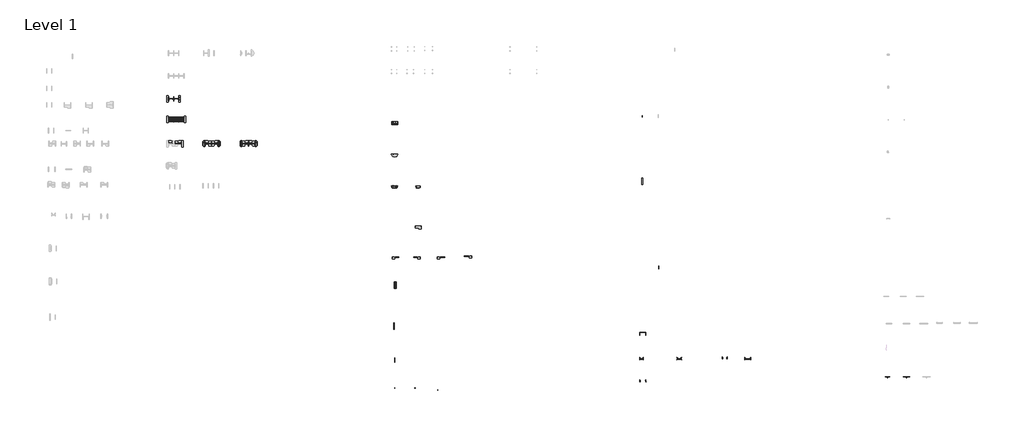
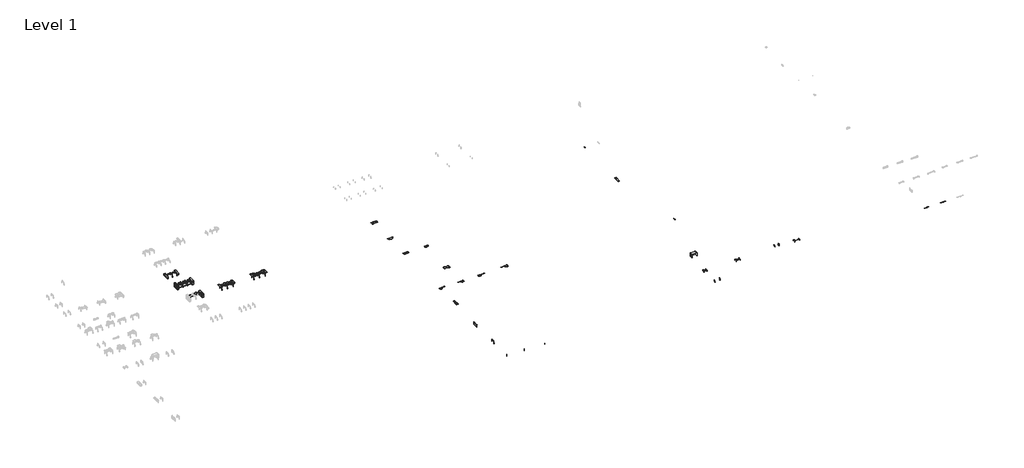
# One storey, part 3 of 4: 114 furniture elements.
"""IFC4 building model written with IfcOpenShell, lengths in millimetres."""

from ifc_helpers import new_model, si_unit, origin, place, context, project, spatial, transform, mapped, element, save
from components import furniture_07929c5c, furniture_1dee7e2f, furniture_bd7a3b76, furniture_5ffd5a01, furniture_1d392456, furniture_46c987b0, furniture_3_high_75bf60bf, furniture_3_high_59e398f0, furniture_3_high_cb3a7265, furniture_2_high_e7661cec, furniture_36w_9987a5bf, furniture_41_1_2w_a59e4a47, furniture_48w_f52d431a, furniture_48w_80b5658e, furniture_48w_f59d3814, furniture_48w_d01410e0, furniture_60w_907c8dee, furniture_60w_9ff7b1d1, furniture_60w_2125a2dd, furniture_60w_cce648a8, furniture_60w_9ca0c22e, furniture_60w_6a745f56, furniture_60w_b1f3d5a1, furniture_60w_left_193ce283, furniture_60w_left_80dfc609, furniture_60w_right_423f7bdd, furniture_60w_right_6b6f8c7d, furniture_60w_right_3e926bd7, furniture_60w_right_09d68f9b, furniture_72w_left_38a2987f, furniture_72w_right_2cdcb562, attachment_bracket_e48f39cd, bracket_5da60547, bracket_8338e0bc, full_2cae2f0a, full_half_8ba35e3a, full_half_125b1efd, lower_48w_93449fcc, lower_48w_d15a52aa, planter_e9aa8756, seat_e1c811f7, side_storage_3572fcca, table_mount_b10ff3c6, table_mount_8f96cead

model = new_model("IFC4")

# Units and contexts
model_context = context("Model", 3, world=origin())
ifc_project = project(units=[si_unit("LENGTHUNIT", "METRE", prefix="MILLI")], contexts=[model_context])

# Site, building, storey
site = spatial("IfcSite", under=ifc_project)
building = spatial("IfcBuilding", under=site)
storey = spatial("IfcBuildingStorey", under=building, Name="Level 1", Elevation=0.0)

# Furniture
placement = place(None, origin())
furniture_shape = furniture_07929c5c(model_context)
element("IfcFurniture", 1, ObjectType="Steelcase Turnstone - Bivi - Table - Leg : 2D x 42 1/4W 28 1/2H", at=placement, inside=storey, context=model_context, shape_type="MappedRepresentation", body=[
    mapped(furniture_shape, transform((722187.3850089, -3962.0722991, 0.0), x_axis=(-1.0, 0.0, 0.0), y_axis=(0.0, -1.0, 0.0), z_axis=(0.0, 0.0, 1.0))),
])
element("IfcFurniture", 2, ObjectType="Steelcase Turnstone - Bivi - Table - Leg : 2D x 42 1/4W 28 1/2H", at=placement, inside=storey, context=model_context, shape_type="MappedRepresentation", body=[
    mapped(furniture_shape, transform((723404.9086089, -3962.0722991, 0.0), x_axis=(-1.0, 0.0, 0.0), y_axis=(0.0, -1.0, 0.0), z_axis=(0.0, 0.0, 1.0))),
])
element("IfcFurniture", 3, ObjectType="Steelcase Turnstone - Bivi - Table - Leg : 2D x 42 1/4W 28 1/2H", at=placement, inside=storey, context=model_context, shape_type="MappedRepresentation", body=[
    mapped(furniture_shape, transform((722187.3850089, -8838.8722991, 0.0), x_axis=(-1.0, 0.0, 0.0), y_axis=(0.0, -1.0, 0.0), z_axis=(0.0, 0.0, 1.0))),
])
element("IfcFurniture", 4, ObjectType="Steelcase Turnstone - Bivi - Table - Leg : 2D x 42 1/4W 28 1/2H", at=placement, inside=storey, context=model_context, shape_type="MappedRepresentation", body=[
    mapped(furniture_shape, transform((723404.9086089, -8838.8722991, 0.0), x_axis=(-1.0, 0.0, 0.0), y_axis=(0.0, -1.0, 0.0), z_axis=(0.0, 0.0, 1.0))),
])
element("IfcFurniture", 5, ObjectType="Steelcase Turnstone - Bivi - Table - Leg : 2D x 42 1/4W 28 1/2H", at=placement, inside=storey, context=model_context, shape_type="MappedRepresentation", body=[
    mapped(furniture_shape, transform((731026.5850089, -14477.6722991, 0.0), x_axis=(-1.0, 0.0, 0.0), y_axis=(0.0, -1.0, 0.0), z_axis=(0.0, 0.0, 1.0))),
])
element("IfcFurniture", 6, ObjectType="Steelcase Turnstone - Bivi - Table - Leg : 2D x 42 1/4W 28 1/2H", at=placement, inside=storey, context=model_context, shape_type="MappedRepresentation", body=[
    mapped(furniture_shape, transform((739713.3850089, -14477.6722991, 0.0), x_axis=(-1.0, 0.0, 0.0), y_axis=(0.0, -1.0, 0.0), z_axis=(0.0, 0.0, 1.0))),
])
furniture_2_shape = furniture_1dee7e2f(model_context)
element("IfcFurniture", 7, ObjectType="Steelcase Turnstone - Bivi - Table - Back Pocket : 28 1/2D x 58 1/2W x 7 1/4H", at=placement, inside=storey, context=model_context, shape_type="MappedRepresentation", body=[
    mapped(furniture_2_shape, transform((773116.4266429, -9485.6635359, 0.0), x_axis=(1.0, 0.0, 0.0), y_axis=(0.0, 1.0, 0.0), z_axis=(0.0, 0.0, 1.0))),
])
furniture_3_shape = furniture_bd7a3b76(model_context)
element("IfcFurniture", 8, ObjectType="Steelcase Turnstone - Bivi - Table - Half Round : 27D x 60W x 8H", at=placement, inside=storey, context=model_context, shape_type="MappedRepresentation", body=[
    mapped(furniture_3_shape, transform((773097.3766429, -16423.038529, 0.0), x_axis=(1.0, 0.0, 0.0), y_axis=(0.0, 1.0, 0.0), z_axis=(0.0, 0.0, 1.0))),
])
furniture_4_shape = furniture_5ffd5a01(model_context)
element("IfcFurniture", 9, ObjectType="Steelcase Turnstone - Bivi - Table - Leg : 2D x 42 1/4W 28 1/2H", at=placement, inside=storey, context=model_context, shape_type="MappedRepresentation", body=[
    mapped(furniture_4_shape, transform((773844.0622101, -65192.9027249, 0.0), x_axis=(1.0, 0.0, 0.0), y_axis=(0.0, 1.0, 0.0), z_axis=(0.0, 0.0, 1.0))),
])
element("IfcFurniture", 10, ObjectType="Steelcase Turnstone - Bivi - Table - Leg : 2D x 42 1/4W 28 1/2H", at=placement, inside=storey, context=model_context, shape_type="MappedRepresentation", body=[
    mapped(furniture_4_shape, transform((720920.7378089, -3962.0722991, 0.0), x_axis=(1.0, 0.0, 0.0), y_axis=(0.0, 1.0, 0.0), z_axis=(0.0, 0.0, 1.0))),
])
element("IfcFurniture", 11, ObjectType="Steelcase Turnstone - Bivi - Table - Leg : 2D x 42 1/4W 28 1/2H", at=placement, inside=storey, context=model_context, shape_type="MappedRepresentation", body=[
    mapped(furniture_4_shape, transform((720920.7378089, -8838.8722991, 0.0), x_axis=(1.0, 0.0, 0.0), y_axis=(0.0, 1.0, 0.0), z_axis=(0.0, 0.0, 1.0))),
])
element("IfcFurniture", 12, ObjectType="Steelcase Turnstone - Bivi - Table - Leg : 2D x 42 1/4W 28 1/2H", at=placement, inside=storey, context=model_context, shape_type="MappedRepresentation", body=[
    mapped(furniture_4_shape, transform((724573.3086089, -8838.8722991, 0.0), x_axis=(1.0, 0.0, 0.0), y_axis=(0.0, 1.0, 0.0), z_axis=(0.0, 0.0, 1.0))),
])
element("IfcFurniture", 13, ObjectType="Steelcase Turnstone - Bivi - Table - Leg : 2D x 42 1/4W 28 1/2H", at=placement, inside=storey, context=model_context, shape_type="MappedRepresentation", body=[
    mapped(furniture_4_shape, transform((729455.1378089, -14477.6722991, 0.0), x_axis=(1.0, 0.0, 0.0), y_axis=(0.0, 1.0, 0.0), z_axis=(0.0, 0.0, 1.0))),
])
element("IfcFurniture", 14, ObjectType="Steelcase Turnstone - Bivi - Table - Leg : 2D x 42 1/4W 28 1/2H", at=placement, inside=storey, context=model_context, shape_type="MappedRepresentation", body=[
    mapped(furniture_4_shape, transform((732498.1086089, -14477.6722991, 0.0), x_axis=(1.0, 0.0, 0.0), y_axis=(0.0, 1.0, 0.0), z_axis=(0.0, 0.0, 1.0))),
])
element("IfcFurniture", 15, ObjectType="Steelcase Turnstone - Bivi - Table - Leg : 2D x 42 1/4W 28 1/2H", at=placement, inside=storey, context=model_context, shape_type="MappedRepresentation", body=[
    mapped(furniture_4_shape, transform((738141.9378089, -14477.6722991, 0.0), x_axis=(1.0, 0.0, 0.0), y_axis=(0.0, 1.0, 0.0), z_axis=(0.0, 0.0, 1.0))),
])
element("IfcFurniture", 16, ObjectType="Steelcase Turnstone - Bivi - Table - Leg : 2D x 42 1/4W 28 1/2H", at=placement, inside=storey, context=model_context, shape_type="MappedRepresentation", body=[
    mapped(furniture_4_shape, transform((741184.9086089, -14477.6722991, 0.0), x_axis=(1.0, 0.0, 0.0), y_axis=(0.0, 1.0, 0.0), z_axis=(0.0, 0.0, 1.0))),
])
furniture_5_shape = furniture_1d392456(model_context)
element("IfcFurniture", 17, ObjectType="Steelcase Turnstone - Bivi - Arch Accessories - Markerboard : 14W x 6 7/8H", at=placement, inside=storey, context=model_context, shape_type="MappedRepresentation", body=[
    mapped(furniture_5_shape, transform((831737.7529477, -7741.6552347, 0.0), x_axis=(1.0, 0.0, 0.0), y_axis=(0.0, 1.0, 0.0), z_axis=(0.0, 0.0, 1.0))),
])
furniture_6_shape = furniture_46c987b0(model_context)
element("IfcFurniture", 18, ObjectType="Steelcase Turnstone - Bivi - Storage - Trunk Support : Attachcment Bracket", at=placement, inside=storey, context=model_context, shape_type="MappedRepresentation", body=[
    mapped(furniture_6_shape, transform((723382.7597915, -4179.9288494, 0.0), x_axis=(0.0, 1.0000000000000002, 0.0), y_axis=(-1.0000000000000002, 0.0, 0.0), z_axis=(0.0, 0.0, 1.0))),
])
element("IfcFurniture", 19, ObjectType="Steelcase Turnstone - Bivi - Storage - Trunk Support : Attachcment Bracket", at=placement, inside=storey, context=model_context, shape_type="MappedRepresentation", body=[
    mapped(furniture_6_shape, transform((720942.8866264, -2663.4353497, 0.0), x_axis=(0.0, -1.0000000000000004, 0.0), y_axis=(1.0000000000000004, 0.0, 0.0), z_axis=(0.0, 0.0, 1.0))),
])
furniture_3_high_shape = furniture_3_high_75bf60bf(model_context)
furniture_3_high_2_shape = furniture_3_high_59e398f0(model_context)
element("IfcFurniture", 20, ObjectType="Steelcase Turnstone - Bivi - Storage - Depot : 3 High", at=placement, inside=storey, context=model_context, shape_type="MappedRepresentation", body=[
    mapped(furniture_3_high_shape, transform((720568.3128089, -9056.7288494, 0.0), x_axis=(0.0, 1.0, 0.0), y_axis=(-1.0, 0.0, 0.0), z_axis=(0.0, 0.0, 1.0))),
    mapped(furniture_3_high_2_shape, transform((720568.3128089, -9056.7288494, 0.0), x_axis=(0.0, 1.0, 0.0), y_axis=(-1.0, 0.0, 0.0), z_axis=(0.0, 0.0, 1.0))),
])
furniture_3_high_3_shape = furniture_3_high_cb3a7265(model_context)
furniture_2_high_shape = furniture_2_high_e7661cec(model_context)
element("IfcFurniture", 21, ObjectType="Steelcase Turnstone - Bivi - Storage - Depot : 3 High", at=placement, inside=storey, context=model_context, shape_type="MappedRepresentation", body=[
    mapped(furniture_3_high_3_shape, transform((724974.8572089, -9056.7288494, 0.0), x_axis=(0.0, 1.0, 0.0), y_axis=(-1.0, 0.0, 0.0), z_axis=(0.0, 0.0, 1.0))),
    mapped(furniture_2_high_shape, transform((724974.8572089, -9056.7288494, 0.0), x_axis=(0.0, 1.0, 0.0), y_axis=(-1.0, 0.0, 0.0), z_axis=(0.0, 0.0, 1.0))),
])
element("IfcFurniture", 22, ObjectType="Steelcase Turnstone - Bivi - Storage - Depot : 3 High", at=placement, inside=storey, context=model_context, shape_type="MappedRepresentation", body=[
    mapped(furniture_3_high_3_shape, transform((724365.2572089, -14695.5288494, 0.0), x_axis=(0.0, 1.0, 0.0), y_axis=(-1.0, 0.0, 0.0), z_axis=(0.0, 0.0, 1.0))),
    mapped(furniture_2_high_shape, transform((724365.2572089, -14695.5288494, 0.0), x_axis=(0.0, 1.0, 0.0), y_axis=(-1.0, 0.0, 0.0), z_axis=(0.0, 0.0, 1.0))),
])
furniture_36w_shape = furniture_36w_9987a5bf(model_context)
element("IfcFurniture", 23, ObjectType="Steelcase Turnstone - Bivi - Seat - Rumble Seat - Freestanding Leg : 36W", at=placement, inside=storey, context=model_context, shape_type="MappedRepresentation", body=[
    mapped(furniture_36w_shape, transform((831468.1990741, -64351.9099381, 0.0), x_axis=(1.0, 0.0, 0.0), y_axis=(0.0, 1.0, 0.0), z_axis=(0.0, 0.0, 1.0))),
])
furniture_41_1_2w_shape = furniture_41_1_2w_a59e4a47(model_context)
element("IfcFurniture", 24, ObjectType="Steelcase Turnstone - Bivi - Table - Transaction : 41 1/2W", at=placement, inside=storey, context=model_context, shape_type="MappedRepresentation", body=[
    mapped(furniture_41_1_2w_shape, transform((778583.7766429, -23850.0204021, 0.0), x_axis=(1.0, 0.0, 0.0), y_axis=(0.0, 1.0, 0.0), z_axis=(0.0, 0.0, 1.0))),
])
furniture_48w_shape = furniture_48w_f52d431a(model_context)
element("IfcFurniture", 25, ObjectType="Steelcase Turnstone - Bivi - Accessories - Monitor Arm Table Mount : 48W", at=placement, inside=storey, context=model_context, shape_type="MappedRepresentation", body=[
    mapped(furniture_48w_shape, transform((888980.396485, -68407.9198126, 0.0), x_axis=(1.0, 0.0, 0.0), y_axis=(0.0, 1.0, 0.0), z_axis=(0.0, 0.0, 1.0))),
])
furniture_48w_2_shape = furniture_48w_80b5658e(model_context)
element("IfcFurniture", 26, ObjectType="Steelcase Turnstone - Bivi - Accessories - High Sit Bracket with Modesty Panel : 48W", at=placement, inside=storey, context=model_context, shape_type="MappedRepresentation", body=[
    mapped(furniture_48w_2_shape, transform((723509.9630089, -8212.4769492, 0.0), x_axis=(-1.0, 0.0, 0.0), y_axis=(0.0, -1.0, 0.0), z_axis=(0.0, 0.0, 1.0))),
])
furniture_48w_3_shape = furniture_48w_f59d3814(model_context)
element("IfcFurniture", 27, ObjectType="Steelcase Turnstone - Bivi - Accessories - High Sit Bracket with Modesty Panel : 48W", at=placement, inside=storey, context=model_context, shape_type="MappedRepresentation", body=[
    mapped(furniture_48w_3_shape, transform((720815.6834089, -8212.4769492, 0.0), x_axis=(1.0, 0.0, 0.0), y_axis=(0.0, 1.0, 0.0), z_axis=(0.0, 0.0, 1.0))),
])
element("IfcFurniture", 28, ObjectType="Steelcase Turnstone - Bivi - Accessories - High Sit Bracket with Modesty Panel : 48W", at=placement, inside=storey, context=model_context, shape_type="MappedRepresentation", body=[
    mapped(furniture_48w_3_shape, transform((723250.7306089, -8212.4769492, 0.0), x_axis=(1.0, 0.0, 0.0), y_axis=(0.0, 1.0, 0.0), z_axis=(0.0, 0.0, 1.0))),
])
furniture_48w_4_shape = furniture_48w_d01410e0(model_context)
element("IfcFurniture", 29, ObjectType="Steelcase Turnstone - Bivi - Seat - Rumble Seat - Freestanding Leg : 48W", at=placement, inside=storey, context=model_context, shape_type="MappedRepresentation", body=[
    mapped(furniture_48w_4_shape, transform((840302.9532911, -64351.9099381, 0.0), x_axis=(1.0, 0.0, 0.0), y_axis=(0.0, 1.0, 0.0), z_axis=(0.0, 0.0, 1.0))),
])
furniture_60w_shape = furniture_60w_907c8dee(model_context)
element("IfcFurniture", 30, ObjectType="Steelcase Turnstone - Bivi - Accessories - End Panel : 60W", at=placement, inside=storey, context=model_context, shape_type="MappedRepresentation", body=[
    mapped(furniture_60w_shape, transform((773587.9014429, -56584.4370987, 0.0), x_axis=(1.0, 0.0, 0.0), y_axis=(0.0, 1.0, 0.0), z_axis=(0.0, 0.0, 1.0))),
])
furniture_60w_2_shape = furniture_60w_9ff7b1d1(model_context)
element("IfcFurniture", 31, ObjectType="Steelcase Turnstone - Bivi - Table - End Hanging Table Top : 60W", at=placement, inside=storey, context=model_context, shape_type="MappedRepresentation", body=[
    mapped(furniture_60w_2_shape, transform((774011.7766187, -47433.1608949, 0.0), x_axis=(1.0, 0.0, 0.0), y_axis=(0.0, 1.0, 0.0), z_axis=(0.0, 0.0, 1.0))),
])
furniture_60w_3_shape = furniture_60w_2125a2dd(model_context)
element("IfcFurniture", 32, ObjectType="Steelcase Turnstone - Bivi - Accessories - Monitor Arm Table Mount : 60W", at=placement, inside=storey, context=model_context, shape_type="MappedRepresentation", body=[
    mapped(furniture_60w_3_shape, transform((893435.0676956, -68407.9198126, 0.0), x_axis=(1.0, 0.0, 0.0), y_axis=(0.0, 1.0, 0.0), z_axis=(0.0, 0.0, 1.0))),
])
furniture_60w_4_shape = furniture_60w_cce648a8(model_context)
element("IfcFurniture", 33, ObjectType="Steelcase Turnstone - Bivi - Accessories - High Sit Bracket with Modesty Panel : 60W", at=placement, inside=storey, context=model_context, shape_type="MappedRepresentation", body=[
    mapped(furniture_60w_4_shape, transform((723965.8157862, -13851.2769492, 0.0), x_axis=(-1.0, 0.0, 0.0), y_axis=(0.0, -1.0, 0.0), z_axis=(0.0, 0.0, 1.0))),
])
element("IfcFurniture", 34, ObjectType="Steelcase Turnstone - Bivi - Accessories - High Sit Bracket with Modesty Panel : 60W", at=placement, inside=storey, context=model_context, shape_type="MappedRepresentation", body=[
    mapped(furniture_60w_4_shape, transform((732500.2157862, -13851.2769492, 0.0), x_axis=(-1.0, 0.0, 0.0), y_axis=(0.0, -1.0, 0.0), z_axis=(0.0, 0.0, 1.0))),
])
element("IfcFurniture", 35, ObjectType="Steelcase Turnstone - Bivi - Accessories - High Sit Bracket with Modesty Panel : 60W", at=placement, inside=storey, context=model_context, shape_type="MappedRepresentation", body=[
    mapped(furniture_60w_4_shape, transform((741187.0157862, -13851.2769492, 0.0), x_axis=(-1.0, 0.0, 0.0), y_axis=(0.0, -1.0, 0.0), z_axis=(0.0, 0.0, 1.0))),
])
furniture_60w_5_shape = furniture_60w_9ca0c22e(model_context)
element("IfcFurniture", 36, ObjectType="Steelcase Turnstone - Bivi - Accessories - High Sit Bracket with Modesty Panel : 60W", at=placement, inside=storey, context=model_context, shape_type="MappedRepresentation", body=[
    mapped(furniture_60w_5_shape, transform((729503.8306316, -13851.2769492, 0.0), x_axis=(1.0, 0.0, 0.0), y_axis=(0.0, 1.0, 0.0), z_axis=(0.0, 0.0, 1.0))),
])
element("IfcFurniture", 37, ObjectType="Steelcase Turnstone - Bivi - Accessories - High Sit Bracket with Modesty Panel : 60W", at=placement, inside=storey, context=model_context, shape_type="MappedRepresentation", body=[
    mapped(furniture_60w_5_shape, transform((738190.6306316, -13851.2769492, 0.0), x_axis=(1.0, 0.0, 0.0), y_axis=(0.0, 1.0, 0.0), z_axis=(0.0, 0.0, 1.0))),
])
furniture_60w_6_shape = furniture_60w_6a745f56(model_context)
element("IfcFurniture", 38, ObjectType="Steelcase Turnstone - Bivi - Table - Transaction : 60W", at=placement, inside=storey, context=model_context, shape_type="MappedRepresentation", body=[
    mapped(furniture_60w_6_shape, transform((773072.8148429, -23850.0204021, 0.0), x_axis=(1.0, 0.0, 0.0), y_axis=(0.0, 1.0, 0.0), z_axis=(0.0, 0.0, 1.0))),
])
element("IfcFurniture", 39, ObjectType="Steelcase Turnstone - Bivi - Table - Transaction : 60W", at=placement, inside=storey, context=model_context, shape_type="MappedRepresentation", body=[
    mapped(furniture_60w_6_shape, transform((729453.7046739, -13179.0353497, 0.0), x_axis=(0.0, -1.0000000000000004, 0.0), y_axis=(1.0000000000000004, 0.0, 0.0), z_axis=(0.0, 0.0, 1.0))),
])
element("IfcFurniture", 40, ObjectType="Steelcase Turnstone - Bivi - Table - Transaction : 60W", at=placement, inside=storey, context=model_context, shape_type="MappedRepresentation", body=[
    mapped(furniture_60w_6_shape, transform((732548.6653439, -14695.7598102, 0.0), x_axis=(0.0, 1.0, 0.0), y_axis=(-1.0, 0.0, 0.0), z_axis=(0.0, 0.0, 1.0))),
])
element("IfcFurniture", 41, ObjectType="Steelcase Turnstone - Bivi - Table - Transaction : 60W", at=placement, inside=storey, context=model_context, shape_type="MappedRepresentation", body=[
    mapped(furniture_60w_6_shape, transform((738140.5046739, -13179.0353497, 0.0), x_axis=(0.0, -1.0000000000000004, 0.0), y_axis=(1.0000000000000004, 0.0, 0.0), z_axis=(0.0, 0.0, 1.0))),
])
element("IfcFurniture", 42, ObjectType="Steelcase Turnstone - Bivi - Table - Transaction : 60W", at=placement, inside=storey, context=model_context, shape_type="MappedRepresentation", body=[
    mapped(furniture_60w_6_shape, transform((741235.4653439, -14695.7598102, 0.0), x_axis=(0.0, 1.0, 0.0), y_axis=(-1.0, 0.0, 0.0), z_axis=(0.0, 0.0, 1.0))),
])
furniture_60w_7_shape = furniture_60w_b1f3d5a1(model_context)
element("IfcFurniture", 43, ObjectType="Steelcase Turnstone - Bivi - Seat - Rumble Seat - Freestanding Leg : 60W", at=placement, inside=storey, context=model_context, shape_type="MappedRepresentation", body=[
    mapped(furniture_60w_7_shape, transform((856304.4706911, -64351.9099381, 0.0), x_axis=(1.0, 0.0, 0.0), y_axis=(0.0, 1.0, 0.0), z_axis=(0.0, 0.0, 1.0))),
])
furniture_60w_left_shape = furniture_60w_left_193ce283(model_context)
element("IfcFurniture", 44, ObjectType="Steelcase Turnstone - Bivi - Table - Dual Top - Upper : 60W - Left", at=placement, inside=storey, context=model_context, shape_type="MappedRepresentation", body=[
    mapped(furniture_60w_left_shape, transform((773149.9706584, -41251.1611671, 0.0), x_axis=(1.0, 0.0, 0.0), y_axis=(0.0, 1.0, 0.0), z_axis=(0.0, 0.0, 1.0))),
])
element("IfcFurniture", 45, ObjectType="Steelcase Turnstone - Bivi - Table - Dual Top - Upper : 60W - Left", at=placement, inside=storey, context=model_context, shape_type="MappedRepresentation", body=[
    mapped(furniture_60w_left_shape, transform((730875.9790244, -14769.019473, 0.0), x_axis=(1.0, 0.0, 0.0), y_axis=(0.0, 1.0, 0.0), z_axis=(0.0, 0.0, 1.0))),
])
element("IfcFurniture", 46, ObjectType="Steelcase Turnstone - Bivi - Table - Dual Top - Upper : 60W - Left", at=placement, inside=storey, context=model_context, shape_type="MappedRepresentation", body=[
    mapped(furniture_60w_left_shape, transform((738038.7790244, -14769.019473, 0.0), x_axis=(1.0, 0.0, 0.0), y_axis=(0.0, 1.0, 0.0), z_axis=(0.0, 0.0, 1.0))),
])
furniture_60w_left_2_shape = furniture_60w_left_80dfc609(model_context)
element("IfcFurniture", 47, ObjectType="Steelcase Turnstone - Bivi - Table - Dual Top - Upper : 60W - Left", at=placement, inside=storey, context=model_context, shape_type="MappedRepresentation", body=[
    mapped(furniture_60w_left_2_shape, transform((722341.5790244, -13098.5001474, 0.0), x_axis=(1.0, 0.0, 0.0), y_axis=(0.0, 1.0, 0.0), z_axis=(0.0, 0.0, 1.0))),
])
element("IfcFurniture", 48, ObjectType="Steelcase Turnstone - Bivi - Table - Dual Top - Upper : 60W - Left", at=placement, inside=storey, context=model_context, shape_type="MappedRepresentation", body=[
    mapped(furniture_60w_left_2_shape, transform((730875.9790244, -13098.5001474, 0.0), x_axis=(1.0, 0.0, 0.0), y_axis=(0.0, 1.0, 0.0), z_axis=(0.0, 0.0, 1.0))),
])
element("IfcFurniture", 49, ObjectType="Steelcase Turnstone - Bivi - Table - Dual Top - Upper : 60W - Left", at=placement, inside=storey, context=model_context, shape_type="MappedRepresentation", body=[
    mapped(furniture_60w_left_2_shape, transform((738038.7790244, -13098.5001474, 0.0), x_axis=(1.0, 0.0, 0.0), y_axis=(0.0, 1.0, 0.0), z_axis=(0.0, 0.0, 1.0))),
])
furniture_60w_right_shape = furniture_60w_right_423f7bdd(model_context)
element("IfcFurniture", 50, ObjectType="Steelcase Turnstone - Bivi - Table - Dual Top - Lower : 60W - Right", at=placement, inside=storey, context=model_context, shape_type="MappedRepresentation", body=[
    mapped(furniture_60w_right_shape, transform((778485.4655405, -33986.7611671, 0.0), x_axis=(1.0, 0.0, 0.0), y_axis=(0.0, 1.0, 0.0), z_axis=(0.0, 0.0, 1.0))),
])
element("IfcFurniture", 51, ObjectType="Steelcase Turnstone - Bivi - Table - Dual Top - Lower : 60W - Right", at=placement, inside=storey, context=model_context, shape_type="MappedRepresentation", body=[
    mapped(furniture_60w_right_shape, transform((722592.9046493, -13103.9813032, 0.0), x_axis=(-1.0000000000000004, 0.0, 0.0), y_axis=(0.0, -1.0000000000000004, 0.0), z_axis=(0.0, 0.0, 1.0))),
])
element("IfcFurniture", 52, ObjectType="Steelcase Turnstone - Bivi - Table - Dual Top - Lower : 60W - Right", at=placement, inside=storey, context=model_context, shape_type="MappedRepresentation", body=[
    mapped(furniture_60w_right_shape, transform((731127.3046493, -13103.9813032, 0.0), x_axis=(-1.0000000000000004, 0.0, 0.0), y_axis=(0.0, -1.0000000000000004, 0.0), z_axis=(0.0, 0.0, 1.0))),
])
element("IfcFurniture", 53, ObjectType="Steelcase Turnstone - Bivi - Table - Dual Top - Lower : 60W - Right", at=placement, inside=storey, context=model_context, shape_type="MappedRepresentation", body=[
    mapped(furniture_60w_right_shape, transform((741344.4546493, -13103.9813032, 0.0), x_axis=(-1.0000000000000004, 0.0, 0.0), y_axis=(0.0, -1.0000000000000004, 0.0), z_axis=(0.0, 0.0, 1.0))),
])
furniture_60w_right_2_shape = furniture_60w_right_6b6f8c7d(model_context)
element("IfcFurniture", 54, ObjectType="Steelcase Turnstone - Bivi - Table - Dual Top - Upper : 60W - Right", at=placement, inside=storey, context=model_context, shape_type="MappedRepresentation", body=[
    mapped(furniture_60w_right_2_shape, transform((778179.1706584, -41251.1611671, 0.0), x_axis=(1.0, 0.0, 0.0), y_axis=(0.0, 1.0, 0.0), z_axis=(0.0, 0.0, 1.0))),
])
element("IfcFurniture", 55, ObjectType="Steelcase Turnstone - Bivi - Table - Dual Top - Upper : 60W - Right", at=placement, inside=storey, context=model_context, shape_type="MappedRepresentation", body=[
    mapped(furniture_60w_right_2_shape, transform((729353.6554244, -14769.019473, 0.0), x_axis=(1.0, 0.0, 0.0), y_axis=(0.0, 1.0, 0.0), z_axis=(0.0, 0.0, 1.0))),
])
element("IfcFurniture", 56, ObjectType="Steelcase Turnstone - Bivi - Table - Dual Top - Upper : 60W - Right", at=placement, inside=storey, context=model_context, shape_type="MappedRepresentation", body=[
    mapped(furniture_60w_right_2_shape, transform((739564.4554244, -14769.019473, 0.0), x_axis=(1.0, 0.0, 0.0), y_axis=(0.0, 1.0, 0.0), z_axis=(0.0, 0.0, 1.0))),
])
furniture_60w_right_3_shape = furniture_60w_right_3e926bd7(model_context)
element("IfcFurniture", 57, ObjectType="Steelcase Turnstone - Bivi - Table - Dual Top - Lower : 60W - Right", at=placement, inside=storey, context=model_context, shape_type="MappedRepresentation", body=[
    mapped(furniture_60w_right_3_shape, transform((722342.3417686, -13103.9813032, 0.0), x_axis=(1.0000000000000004, 0.0, 0.0), y_axis=(0.0, 1.0000000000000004, 0.0), z_axis=(0.0, 0.0, 1.0))),
])
element("IfcFurniture", 58, ObjectType="Steelcase Turnstone - Bivi - Table - Dual Top - Lower : 60W - Right", at=placement, inside=storey, context=model_context, shape_type="MappedRepresentation", body=[
    mapped(furniture_60w_right_3_shape, transform((730876.7417686, -13103.9813032, 0.0), x_axis=(1.0000000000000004, 0.0, 0.0), y_axis=(0.0, 1.0000000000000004, 0.0), z_axis=(0.0, 0.0, 1.0))),
])
element("IfcFurniture", 59, ObjectType="Steelcase Turnstone - Bivi - Table - Dual Top - Lower : 60W - Right", at=placement, inside=storey, context=model_context, shape_type="MappedRepresentation", body=[
    mapped(furniture_60w_right_3_shape, transform((738039.5417686, -13103.9813032, 0.0), x_axis=(1.0000000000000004, 0.0, 0.0), y_axis=(0.0, 1.0000000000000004, 0.0), z_axis=(0.0, 0.0, 1.0))),
])
furniture_60w_right_4_shape = furniture_60w_right_09d68f9b(model_context)
element("IfcFurniture", 60, ObjectType="Steelcase Turnstone - Bivi - Table - Dual Top - Upper : 60W - Right", at=placement, inside=storey, context=model_context, shape_type="MappedRepresentation", body=[
    mapped(furniture_60w_right_4_shape, transform((729353.6554244, -13098.5001474, 0.0), x_axis=(1.0, 0.0, 0.0), y_axis=(0.0, 1.0, 0.0), z_axis=(0.0, 0.0, 1.0))),
])
element("IfcFurniture", 61, ObjectType="Steelcase Turnstone - Bivi - Table - Dual Top - Upper : 60W - Right", at=placement, inside=storey, context=model_context, shape_type="MappedRepresentation", body=[
    mapped(furniture_60w_right_4_shape, transform((739564.4554244, -13098.5001474, 0.0), x_axis=(1.0, 0.0, 0.0), y_axis=(0.0, 1.0, 0.0), z_axis=(0.0, 0.0, 1.0))),
])
furniture_72w_left_shape = furniture_72w_left_38a2987f(model_context)
element("IfcFurniture", 62, ObjectType="Steelcase Turnstone - Bivi - Table - Dual Top - Upper : 72W - Left", at=placement, inside=storey, context=model_context, shape_type="MappedRepresentation", body=[
    mapped(furniture_72w_left_shape, transform((783665.5706584, -41251.1611671, 0.0), x_axis=(1.0, 0.0, 0.0), y_axis=(0.0, 1.0, 0.0), z_axis=(0.0, 0.0, 1.0))),
])
furniture_72w_right_shape = furniture_72w_right_2cdcb562(model_context)
element("IfcFurniture", 63, ObjectType="Steelcase Turnstone - Bivi - Table - Dual Top - Upper : 72W - Right", at=placement, inside=storey, context=model_context, shape_type="MappedRepresentation", body=[
    mapped(furniture_72w_right_shape, transform((789946.511113, -40988.6605431, 0.0), x_axis=(1.0, 0.0, 0.0), y_axis=(0.0, 1.0, 0.0), z_axis=(0.0, 0.0, 1.0))),
])
attachment_bracket_shape = attachment_bracket_e48f39cd(model_context)
element("IfcFurniture", 64, ObjectType="Steelcase Turnstone - Bivi - Storage - Trunk : Attachment Bracket", at=placement, inside=storey, context=model_context, shape_type="MappedRepresentation", body=[
    mapped(attachment_bracket_shape, transform((723407.3214706, -4179.9288494, 0.0), x_axis=(0.0, 1.0000000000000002, 0.0), y_axis=(-1.0000000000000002, 0.0, 0.0), z_axis=(0.0, 0.0, 1.0))),
])
element("IfcFurniture", 65, ObjectType="Steelcase Turnstone - Bivi - Storage - Trunk : Attachment Bracket", at=placement, inside=storey, context=model_context, shape_type="MappedRepresentation", body=[
    mapped(attachment_bracket_shape, transform((720918.3249473, -2663.4353497, 0.0), x_axis=(0.0, -1.0000000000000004, 0.0), y_axis=(1.0000000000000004, 0.0, 0.0), z_axis=(0.0, 0.0, 1.0))),
])
bracket_shape = bracket_5da60547(model_context)
element("IfcFurniture", 66, ObjectType="Steelcase Turnstone - Bivi - Seat - Rumble Seat - Table Frame Attachment Bracket : Bracket", at=placement, inside=storey, context=model_context, shape_type="MappedRepresentation", body=[
    mapped(bracket_shape, transform((831032.460375, -69489.0882058, 0.2767651), x_axis=(1.0, 0.0, 0.0), y_axis=(0.0, 1.0, 0.0), z_axis=(0.0, 0.0, 1.0))),
])
bracket_2_shape = bracket_8338e0bc(model_context)
element("IfcFurniture", 67, ObjectType="Steelcase Turnstone - Bivi - Seat - Rumble Seat - Table Frame Attachment Bracket : Bracket", at=placement, inside=storey, context=model_context, shape_type="MappedRepresentation", body=[
    mapped(bracket_2_shape, transform((850382.052592, -64078.8882058, 0.2767651), x_axis=(1.0, 0.0, 0.0), y_axis=(0.0, 1.0, 0.0), z_axis=(0.0, 0.0, 1.0))),
])
full_shape = full_2cae2f0a(model_context)
element("IfcFurniture", 68, ObjectType="Steelcase Turnstone - Bivi - Table - Leg Cover : Full", at=placement, inside=storey, context=model_context, shape_type="MappedRepresentation", body=[
    mapped(full_shape, transform((773844.0622101, -71271.9958772, 0.0), x_axis=(1.0, 0.0, 0.0), y_axis=(0.0, 1.0, 0.0), z_axis=(0.0, 0.0, 1.0))),
])
full_half_shape = full_half_8ba35e3a(model_context)
element("IfcFurniture", 69, ObjectType="Steelcase Turnstone - Bivi - Table - Leg Cover : Full/Half", at=placement, inside=storey, context=model_context, shape_type="MappedRepresentation", body=[
    mapped(full_half_shape, transform((773844.0622101, -65192.9027249, 0.0), x_axis=(1.0, 0.0, 0.0), y_axis=(0.0, 1.0, 0.0), z_axis=(0.0, 0.0, 1.0))),
])
element("IfcFurniture", 70, ObjectType="Steelcase Turnstone - Bivi - Table - Leg Cover : Full/Half", at=placement, inside=storey, context=model_context, shape_type="MappedRepresentation", body=[
    mapped(full_half_shape, transform((720920.7378089, -3962.0722991, 0.0), x_axis=(1.0, 0.0, 0.0), y_axis=(0.0, 1.0, 0.0), z_axis=(0.0, 0.0, 1.0))),
])
element("IfcFurniture", 71, ObjectType="Steelcase Turnstone - Bivi - Table - Leg Cover : Full/Half", at=placement, inside=storey, context=model_context, shape_type="MappedRepresentation", body=[
    mapped(full_half_shape, transform((722187.3850089, -2888.7984002, 0.0), x_axis=(-1.0, 0.0, 0.0), y_axis=(0.0, -1.0, 0.0), z_axis=(0.0, 0.0, 1.0))),
])
element("IfcFurniture", 72, ObjectType="Steelcase Turnstone - Bivi - Table - Leg Cover : Full/Half", at=placement, inside=storey, context=model_context, shape_type="MappedRepresentation", body=[
    mapped(full_half_shape, transform((723404.9086089, -2888.7984002, 0.0), x_axis=(-1.0, 0.0, 0.0), y_axis=(0.0, -1.0, 0.0), z_axis=(0.0, 0.0, 1.0))),
])
element("IfcFurniture", 73, ObjectType="Steelcase Turnstone - Bivi - Table - Leg Cover : Full/Half", at=placement, inside=storey, context=model_context, shape_type="MappedRepresentation", body=[
    mapped(full_half_shape, transform((720920.7378089, -8838.8722991, 0.0), x_axis=(1.0, 0.0, 0.0), y_axis=(0.0, 1.0, 0.0), z_axis=(0.0, 0.0, 1.0))),
])
element("IfcFurniture", 74, ObjectType="Steelcase Turnstone - Bivi - Table - Leg Cover : Full/Half", at=placement, inside=storey, context=model_context, shape_type="MappedRepresentation", body=[
    mapped(full_half_shape, transform((722187.3850089, -7765.5984002, 0.0), x_axis=(-1.0, 0.0, 0.0), y_axis=(0.0, -1.0, 0.0), z_axis=(0.0, 0.0, 1.0))),
])
element("IfcFurniture", 75, ObjectType="Steelcase Turnstone - Bivi - Table - Leg Cover : Full/Half", at=placement, inside=storey, context=model_context, shape_type="MappedRepresentation", body=[
    mapped(full_half_shape, transform((723404.9086089, -7765.5984002, 0.0), x_axis=(-1.0, 0.0, 0.0), y_axis=(0.0, -1.0, 0.0), z_axis=(0.0, 0.0, 1.0))),
])
element("IfcFurniture", 76, ObjectType="Steelcase Turnstone - Bivi - Table - Leg Cover : Full/Half", at=placement, inside=storey, context=model_context, shape_type="MappedRepresentation", body=[
    mapped(full_half_shape, transform((724573.3086089, -8838.8722991, 0.0), x_axis=(1.0, 0.0, 0.0), y_axis=(0.0, 1.0, 0.0), z_axis=(0.0, 0.0, 1.0))),
])
element("IfcFurniture", 77, ObjectType="Steelcase Turnstone - Bivi - Table - Leg Cover : Full/Half", at=placement, inside=storey, context=model_context, shape_type="MappedRepresentation", body=[
    mapped(full_half_shape, transform((722492.1850089, -13404.3984002, 0.0), x_axis=(-1.0, 0.0, 0.0), y_axis=(0.0, -1.0, 0.0), z_axis=(0.0, 0.0, 1.0))),
])
element("IfcFurniture", 78, ObjectType="Steelcase Turnstone - Bivi - Table - Leg Cover : Full/Half", at=placement, inside=storey, context=model_context, shape_type="MappedRepresentation", body=[
    mapped(full_half_shape, transform((729455.1378089, -14477.6722991, 0.0), x_axis=(1.0, 0.0, 0.0), y_axis=(0.0, 1.0, 0.0), z_axis=(0.0, 0.0, 1.0))),
])
element("IfcFurniture", 79, ObjectType="Steelcase Turnstone - Bivi - Table - Leg Cover : Full/Half", at=placement, inside=storey, context=model_context, shape_type="MappedRepresentation", body=[
    mapped(full_half_shape, transform((731026.5850089, -13404.3984002, 0.0), x_axis=(-1.0, 0.0, 0.0), y_axis=(0.0, -1.0, 0.0), z_axis=(0.0, 0.0, 1.0))),
])
element("IfcFurniture", 80, ObjectType="Steelcase Turnstone - Bivi - Table - Leg Cover : Full/Half", at=placement, inside=storey, context=model_context, shape_type="MappedRepresentation", body=[
    mapped(full_half_shape, transform((732498.1086089, -14477.6722991, 0.0), x_axis=(1.0, 0.0, 0.0), y_axis=(0.0, 1.0, 0.0), z_axis=(0.0, 0.0, 1.0))),
])
element("IfcFurniture", 81, ObjectType="Steelcase Turnstone - Bivi - Table - Leg Cover : Full/Half", at=placement, inside=storey, context=model_context, shape_type="MappedRepresentation", body=[
    mapped(full_half_shape, transform((738141.9378089, -14477.6722991, 0.0), x_axis=(1.0, 0.0, 0.0), y_axis=(0.0, 1.0, 0.0), z_axis=(0.0, 0.0, 1.0))),
])
element("IfcFurniture", 82, ObjectType="Steelcase Turnstone - Bivi - Table - Leg Cover : Full/Half", at=placement, inside=storey, context=model_context, shape_type="MappedRepresentation", body=[
    mapped(full_half_shape, transform((739713.3850089, -13404.3984002, 0.0), x_axis=(-1.0, 0.0, 0.0), y_axis=(0.0, -1.0, 0.0), z_axis=(0.0, 0.0, 1.0))),
])
element("IfcFurniture", 83, ObjectType="Steelcase Turnstone - Bivi - Table - Leg Cover : Full/Half", at=placement, inside=storey, context=model_context, shape_type="MappedRepresentation", body=[
    mapped(full_half_shape, transform((741184.9086089, -14477.6722991, 0.0), x_axis=(1.0, 0.0, 0.0), y_axis=(0.0, 1.0, 0.0), z_axis=(0.0, 0.0, 1.0))),
])
full_half_2_shape = full_half_125b1efd(model_context)
element("IfcFurniture", 84, ObjectType="Steelcase Turnstone - Bivi - Table - Leg Cover : Full/Half", at=placement, inside=storey, context=model_context, shape_type="MappedRepresentation", body=[
    mapped(full_half_2_shape, transform((773844.0622101, -64119.628826, 0.0), x_axis=(1.0, 0.0, 0.0), y_axis=(0.0, 1.0, 0.0), z_axis=(0.0, 0.0, 1.0))),
])
element("IfcFurniture", 85, ObjectType="Steelcase Turnstone - Bivi - Table - Leg Cover : Full/Half", at=placement, inside=storey, context=model_context, shape_type="MappedRepresentation", body=[
    mapped(full_half_2_shape, transform((720920.7378089, -2888.7984002, 0.0), x_axis=(1.0, 0.0, 0.0), y_axis=(0.0, 1.0, 0.0), z_axis=(0.0, 0.0, 1.0))),
])
element("IfcFurniture", 86, ObjectType="Steelcase Turnstone - Bivi - Table - Leg Cover : Full/Half", at=placement, inside=storey, context=model_context, shape_type="MappedRepresentation", body=[
    mapped(full_half_2_shape, transform((722187.3850089, -3962.0722991, 0.0), x_axis=(-1.0, 0.0, 0.0), y_axis=(0.0, -1.0, 0.0), z_axis=(0.0, 0.0, 1.0))),
])
element("IfcFurniture", 87, ObjectType="Steelcase Turnstone - Bivi - Table - Leg Cover : Full/Half", at=placement, inside=storey, context=model_context, shape_type="MappedRepresentation", body=[
    mapped(full_half_2_shape, transform((723404.9086089, -3962.0722991, 0.0), x_axis=(-1.0, 0.0, 0.0), y_axis=(0.0, -1.0, 0.0), z_axis=(0.0, 0.0, 1.0))),
])
element("IfcFurniture", 88, ObjectType="Steelcase Turnstone - Bivi - Table - Leg Cover : Full/Half", at=placement, inside=storey, context=model_context, shape_type="MappedRepresentation", body=[
    mapped(full_half_2_shape, transform((720920.7378089, -7765.5984002, 0.0), x_axis=(1.0, 0.0, 0.0), y_axis=(0.0, 1.0, 0.0), z_axis=(0.0, 0.0, 1.0))),
])
element("IfcFurniture", 89, ObjectType="Steelcase Turnstone - Bivi - Table - Leg Cover : Full/Half", at=placement, inside=storey, context=model_context, shape_type="MappedRepresentation", body=[
    mapped(full_half_2_shape, transform((722187.3850089, -8838.8722991, 0.0), x_axis=(-1.0, 0.0, 0.0), y_axis=(0.0, -1.0, 0.0), z_axis=(0.0, 0.0, 1.0))),
])
element("IfcFurniture", 90, ObjectType="Steelcase Turnstone - Bivi - Table - Leg Cover : Full/Half", at=placement, inside=storey, context=model_context, shape_type="MappedRepresentation", body=[
    mapped(full_half_2_shape, transform((723404.9086089, -8838.8722991, 0.0), x_axis=(-1.0, 0.0, 0.0), y_axis=(0.0, -1.0, 0.0), z_axis=(0.0, 0.0, 1.0))),
])
element("IfcFurniture", 91, ObjectType="Steelcase Turnstone - Bivi - Table - Leg Cover : Full/Half", at=placement, inside=storey, context=model_context, shape_type="MappedRepresentation", body=[
    mapped(full_half_2_shape, transform((724573.3086089, -7765.5984002, 0.0), x_axis=(1.0, 0.0, 0.0), y_axis=(0.0, 1.0, 0.0), z_axis=(0.0, 0.0, 1.0))),
])
element("IfcFurniture", 92, ObjectType="Steelcase Turnstone - Bivi - Table - Leg Cover : Full/Half", at=placement, inside=storey, context=model_context, shape_type="MappedRepresentation", body=[
    mapped(full_half_2_shape, transform((723963.7086089, -13404.3984002, 0.0), x_axis=(1.0, 0.0, 0.0), y_axis=(0.0, 1.0, 0.0), z_axis=(0.0, 0.0, 1.0))),
])
element("IfcFurniture", 93, ObjectType="Steelcase Turnstone - Bivi - Table - Leg Cover : Full/Half", at=placement, inside=storey, context=model_context, shape_type="MappedRepresentation", body=[
    mapped(full_half_2_shape, transform((729455.1378089, -13404.3984002, 0.0), x_axis=(1.0, 0.0, 0.0), y_axis=(0.0, 1.0, 0.0), z_axis=(0.0, 0.0, 1.0))),
])
element("IfcFurniture", 94, ObjectType="Steelcase Turnstone - Bivi - Table - Leg Cover : Full/Half", at=placement, inside=storey, context=model_context, shape_type="MappedRepresentation", body=[
    mapped(full_half_2_shape, transform((731026.5850089, -14477.6722991, 0.0), x_axis=(-1.0, 0.0, 0.0), y_axis=(0.0, -1.0, 0.0), z_axis=(0.0, 0.0, 1.0))),
])
element("IfcFurniture", 95, ObjectType="Steelcase Turnstone - Bivi - Table - Leg Cover : Full/Half", at=placement, inside=storey, context=model_context, shape_type="MappedRepresentation", body=[
    mapped(full_half_2_shape, transform((732498.1086089, -13404.3984002, 0.0), x_axis=(1.0, 0.0, 0.0), y_axis=(0.0, 1.0, 0.0), z_axis=(0.0, 0.0, 1.0))),
])
element("IfcFurniture", 96, ObjectType="Steelcase Turnstone - Bivi - Table - Leg Cover : Full/Half", at=placement, inside=storey, context=model_context, shape_type="MappedRepresentation", body=[
    mapped(full_half_2_shape, transform((738141.9378089, -13404.3984002, 0.0), x_axis=(1.0, 0.0, 0.0), y_axis=(0.0, 1.0, 0.0), z_axis=(0.0, 0.0, 1.0))),
])
element("IfcFurniture", 97, ObjectType="Steelcase Turnstone - Bivi - Table - Leg Cover : Full/Half", at=placement, inside=storey, context=model_context, shape_type="MappedRepresentation", body=[
    mapped(full_half_2_shape, transform((739713.3850089, -14477.6722991, 0.0), x_axis=(-1.0, 0.0, 0.0), y_axis=(0.0, -1.0, 0.0), z_axis=(0.0, 0.0, 1.0))),
])
element("IfcFurniture", 98, ObjectType="Steelcase Turnstone - Bivi - Table - Leg Cover : Full/Half", at=placement, inside=storey, context=model_context, shape_type="MappedRepresentation", body=[
    mapped(full_half_2_shape, transform((741184.9086089, -13404.3984002, 0.0), x_axis=(1.0, 0.0, 0.0), y_axis=(0.0, 1.0, 0.0), z_axis=(0.0, 0.0, 1.0))),
])
element("IfcFurniture", 99, ObjectType="Steelcase Turnstone - Bivi - Table - Leg Cover : Full/Half", at=placement, inside=storey, context=model_context, shape_type="MappedRepresentation", body=[
    mapped(full_shape, transform((778568.4622101, -71271.9958772, 0.0), x_axis=(1.0, 0.0, 0.0), y_axis=(0.0, 1.0, 0.0), z_axis=(0.0, 0.0, 1.0))),
])
element("IfcFurniture", 100, ObjectType="Steelcase Turnstone - Bivi - Table - Leg Cover : Half", at=placement, inside=storey, context=model_context, shape_type="MappedRepresentation", body=[
    mapped(full_half_shape, transform((783902.4622101, -71729.1958772, 0.0), x_axis=(1.0, 0.0, 0.0), y_axis=(0.0, 1.0, 0.0), z_axis=(0.0, 0.0, 1.0))),
])
lower_48w_shape = lower_48w_93449fcc(model_context)
element("IfcFurniture", 101, ObjectType="Steelcase Turnstone - Bivi - Accessories - Footshelf : Lower - 48W", at=placement, inside=storey, context=model_context, shape_type="MappedRepresentation", body=[
    mapped(lower_48w_shape, transform((723381.2739089, -8335.9703837, 0.0), x_axis=(-1.0, 0.0, 0.0), y_axis=(0.0, -1.0, 0.0), z_axis=(0.0, 0.0, 1.0))),
])
element("IfcFurniture", 102, ObjectType="Steelcase Turnstone - Bivi - Accessories - Footshelf : Lower - 48W", at=placement, inside=storey, context=model_context, shape_type="MappedRepresentation", body=[
    mapped(lower_48w_shape, transform((720944.3725089, -8253.9492367, 0.0), x_axis=(1.0, 0.0, 0.0), y_axis=(0.0, 1.0, 0.0), z_axis=(0.0, 0.0, 1.0))),
])
element("IfcFurniture", 103, ObjectType="Steelcase Turnstone - Bivi - Accessories - Footshelf : Lower - 48W", at=placement, inside=storey, context=model_context, shape_type="MappedRepresentation", body=[
    mapped(lower_48w_shape, transform((723380.9183089, -8253.9492367, 0.0), x_axis=(1.0, 0.0, 0.0), y_axis=(0.0, 1.0, 0.0), z_axis=(0.0, 0.0, 1.0))),
])
lower_48w_2_shape = lower_48w_d15a52aa(model_context)
element("IfcFurniture", 104, ObjectType="Steelcase Turnstone - Bivi - Accessories - Footshelf : Lower - 48W", at=placement, inside=storey, context=model_context, shape_type="MappedRepresentation", body=[
    mapped(lower_48w_2_shape, transform((720944.3725089, -8335.9703837, 0.0), x_axis=(1.0, 0.0, 0.0), y_axis=(0.0, 1.0, 0.0), z_axis=(0.0, 0.0, 1.0))),
])
element("IfcFurniture", 105, ObjectType="Steelcase Turnstone - Bivi - Accessories - Footshelf : Lower - 48W", at=placement, inside=storey, context=model_context, shape_type="MappedRepresentation", body=[
    mapped(lower_48w_2_shape, transform((723380.9183089, -8335.9703837, 0.0), x_axis=(1.0, 0.0, 0.0), y_axis=(0.0, 1.0, 0.0), z_axis=(0.0, 0.0, 1.0))),
])
element("IfcFurniture", 106, ObjectType="Steelcase Turnstone - Bivi - Accessories - Footshelf : Lower - 48W", at=placement, inside=storey, context=model_context, shape_type="MappedRepresentation", body=[
    mapped(lower_48w_2_shape, transform((723381.2739089, -8253.9492367, 0.0), x_axis=(-1.0, 0.0, 0.0), y_axis=(0.0, -1.0, 0.0), z_axis=(0.0, 0.0, 1.0))),
])
planter_shape = planter_e9aa8756(model_context)
element("IfcFurniture", 107, ObjectType="Steelcase Turnstone - Bivi - Arch Accessories - Holder and Planter : Planter", at=placement, inside=storey, context=model_context, shape_type="MappedRepresentation", body=[
    mapped(planter_shape, transform((835593.6183495, -42951.4029344, 0.0), x_axis=(1.0, 0.0, 0.0), y_axis=(0.0, 1.0, 0.0), z_axis=(0.0, 0.0, 1.0))),
])
seat_shape = seat_e1c811f7(model_context)
element("IfcFurniture", 108, ObjectType="Steelcase Turnstone - Bivi - Seat - Hoodie : Seat", at=placement, inside=storey, context=model_context, shape_type="MappedRepresentation", body=[
    mapped(seat_shape, transform((828843.3316787, -58303.6445882, 0.0), x_axis=(1.0, 0.0, 0.0), y_axis=(0.0, 1.0, 0.0), z_axis=(0.0, 0.0, 1.0))),
])
side_storage_shape = side_storage_3572fcca(model_context)
element("IfcFurniture", 109, ObjectType="Steelcase Turnstone - Bivi - Arch Accessories - Side Storage : Side Storage", at=placement, inside=storey, context=model_context, shape_type="MappedRepresentation", body=[
    mapped(side_storage_shape, transform((830949.0829477, -22924.5687301, 0.0), x_axis=(1.0, 0.0, 0.0), y_axis=(0.0, 1.0, 0.0), z_axis=(0.0, 0.0, 1.0))),
])
table_mount_shape = table_mount_b10ff3c6(model_context)
element("IfcFurniture", 110, ObjectType="Steelcase Turnstone - Bivi - Accessories - Screen - Metal : Table Mount", at=placement, inside=storey, context=model_context, shape_type="MappedRepresentation", body=[
    mapped(table_mount_shape, transform((724423.0103653, -8528.2588148, 343.69375), x_axis=(-1.0, 0.0, 0.0), y_axis=(0.0, -1.0, 0.0), z_axis=(0.0, 0.0, 1.0))),
])
table_mount_2_shape = table_mount_8f96cead(model_context)
element("IfcFurniture", 111, ObjectType="Steelcase Turnstone - Bivi - Accessories - Screen - Metal : Table Mount", at=placement, inside=storey, context=model_context, shape_type="MappedRepresentation", body=[
    mapped(table_mount_2_shape, transform((721120.1596526, -3651.4588148, 0.0), x_axis=(1.0, 0.0, 0.0), y_axis=(0.0, 1.0, 0.0), z_axis=(0.0, 0.0, 1.0))),
])
element("IfcFurniture", 112, ObjectType="Steelcase Turnstone - Bivi - Accessories - Screen - Metal : Table Mount", at=placement, inside=storey, context=model_context, shape_type="MappedRepresentation", body=[
    mapped(table_mount_2_shape, transform((722337.6832526, -3651.4588148, 0.0), x_axis=(1.0, 0.0, 0.0), y_axis=(0.0, 1.0, 0.0), z_axis=(0.0, 0.0, 1.0))),
])
element("IfcFurniture", 113, ObjectType="Steelcase Turnstone - Bivi - Accessories - Screen - Metal : Table Mount", at=placement, inside=storey, context=model_context, shape_type="MappedRepresentation", body=[
    mapped(table_mount_2_shape, transform((721120.1596526, -8528.2588148, 343.69375), x_axis=(1.0, 0.0, 0.0), y_axis=(0.0, 1.0, 0.0), z_axis=(0.0, 0.0, 1.0))),
])
element("IfcFurniture", 114, ObjectType="Steelcase Turnstone - Bivi - Accessories - Screen - Metal : Table Mount", at=placement, inside=storey, context=model_context, shape_type="MappedRepresentation", body=[
    mapped(table_mount_2_shape, transform((722337.6832526, -8528.2588148, 343.69375), x_axis=(1.0, 0.0, 0.0), y_axis=(0.0, 1.0, 0.0), z_axis=(0.0, 0.0, 1.0))),
])

save(model, "model.ifc")
